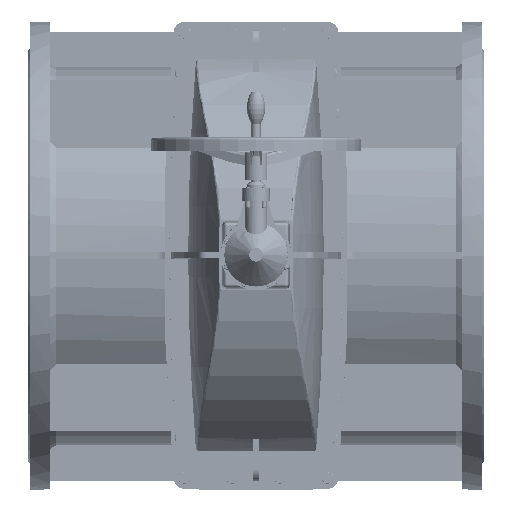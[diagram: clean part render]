
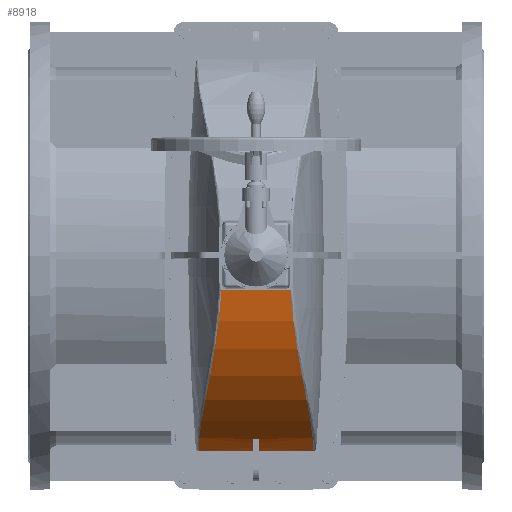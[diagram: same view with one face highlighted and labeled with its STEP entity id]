
A CAD part, top view. The second image highlights one B-rep face of the part: STEP entity #8918.
In plain terms, the highlighted cylindrical face has radius 457.333 mm (diameter 914.667 mm), a partial arc.
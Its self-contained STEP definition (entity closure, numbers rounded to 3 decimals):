
#8918=ADVANCED_FACE('',(#16828),#16830,.T.);
#16828=FACE_BOUND('',#16829,.T.);
#16829=EDGE_LOOP('',(#29916,#29917,#29918,#29919,#29920,#29921,#29922,#29923));
#16830=CYLINDRICAL_SURFACE('',#16831,457.333);
#16831=AXIS2_PLACEMENT_3D('',#16832,#16833,#16834);
#16832=CARTESIAN_POINT('',(0.,-149.505,-43.));
#16833=DIRECTION('',(0.,1.,0.));
#16834=DIRECTION('',(-0.939,0.,0.345));
#29916=ORIENTED_EDGE('',*,*,#34462,.F.);
#29917=ORIENTED_EDGE('',*,*,#34463,.F.);
#29918=ORIENTED_EDGE('',*,*,#34464,.F.);
#29919=ORIENTED_EDGE('',*,*,#34465,.F.);
#29920=ORIENTED_EDGE('',*,*,#34466,.F.);
#29921=ORIENTED_EDGE('',*,*,#34467,.T.);
#29922=ORIENTED_EDGE('',*,*,#34468,.F.);
#29923=ORIENTED_EDGE('',*,*,#34469,.F.);
#34462=EDGE_CURVE('',#38818,#38819,#38820,.F.);
#34463=EDGE_CURVE('',#38821,#38818,#38822,.T.);
#34464=EDGE_CURVE('',#38823,#38821,#38824,.T.);
#34465=EDGE_CURVE('',#38825,#38823,#38826,.T.);
#34466=EDGE_CURVE('',#38827,#38825,#38828,.F.);
#34467=EDGE_CURVE('',#38827,#38829,#38830,.T.);
#34468=EDGE_CURVE('',#38831,#38829,#38832,.T.);
#34469=EDGE_CURVE('',#38819,#38831,#38833,.T.);
#38818=VERTEX_POINT('',#53594);
#38819=VERTEX_POINT('',#53595);
#38820=CIRCLE('',#53596,457.333);
#38821=VERTEX_POINT('',#53600);
#38822=LINE('',#53601,#53602);
#38823=VERTEX_POINT('',#53604);
#38824=CIRCLE('',#53605,457.333);
#38825=VERTEX_POINT('',#53609);
#38826=LINE('',#53610,#53611);
#38827=VERTEX_POINT('',#53613);
#38828=B_SPLINE_CURVE_WITH_KNOTS('',3,
(#53614,#53615,#53616,#53617,#53618,#53619,#53620,#53621,#53622,#53623,#53624,#53625,
#53626,#53627),
.UNSPECIFIED.,.F.,.F.,
(4,1,1,1,1,1,1,1,1,1,1,4),
(0.,0.098,0.184,0.264,0.35,0.449,
0.557,0.668,0.772,0.861,0.936,
1.),
.UNSPECIFIED.);
#38829=VERTEX_POINT('',#53628);
#38830=LINE('',#53629,#53630);
#38831=VERTEX_POINT('',#53632);
#38832=B_SPLINE_CURVE_WITH_KNOTS('',3,
(#53633,#53634,#53635,#53636,#53637,#53638,#53639,#53640,#53641,#53642,#53643,#53644,
#53645,#53646),
.UNSPECIFIED.,.F.,.F.,
(4,1,1,1,1,1,1,1,1,1,1,4),
(0.,0.098,0.184,0.264,0.35,0.449,
0.557,0.668,0.772,0.861,0.936,
1.),
.UNSPECIFIED.);
#38833=LINE('',#53647,#53648);
#53594=CARTESIAN_POINT('',(-402.213,7.167,174.667));
#53595=CARTESIAN_POINT('',(-429.296,7.167,114.667));
#53596=AXIS2_PLACEMENT_3D('',#53597,#53598,#53599);
#53597=CARTESIAN_POINT('',(0.,7.167,-43.));
#53598=DIRECTION('',(0.,1.,0.));
#53599=DIRECTION('',(-0.939,0.,0.345));
#53600=CARTESIAN_POINT('',(-402.213,-7.167,174.667));
#53601=CARTESIAN_POINT('',(-402.213,-7.167,174.667));
#53602=VECTOR('',#53603,1.);
#53603=DIRECTION('',(0.,1.,0.));
#53604=CARTESIAN_POINT('',(-429.296,-7.167,114.667));
#53605=AXIS2_PLACEMENT_3D('',#53606,#53607,#53608);
#53606=CARTESIAN_POINT('',(0.,-7.167,-43.));
#53607=DIRECTION('',(0.,1.,0.));
#53608=DIRECTION('',(-0.939,0.,0.345));
#53609=CARTESIAN_POINT('',(-429.296,-124.779,114.667));
#53610=CARTESIAN_POINT('',(-429.296,-124.779,114.667));
#53611=VECTOR('',#53612,1.);
#53612=DIRECTION('',(0.,1.,0.));
#53613=CARTESIAN_POINT('',(-77.482,-75.618,407.722));
#53614=CARTESIAN_POINT('',(-429.296,-124.779,114.667));
#53615=CARTESIAN_POINT('',(-423.893,-125.315,129.379));
#53616=CARTESIAN_POINT('',(-412.294,-125.288,156.556));
#53617=CARTESIAN_POINT('',(-391.976,-123.449,193.73));
#53618=CARTESIAN_POINT('',(-369.518,-120.209,227.452));
#53619=CARTESIAN_POINT('',(-342.992,-115.58,260.594));
#53620=CARTESIAN_POINT('',(-310.308,-109.33,294.162));
#53621=CARTESIAN_POINT('',(-271.297,-101.776,326.408));
#53622=CARTESIAN_POINT('',(-228.21,-93.926,354.429));
#53623=CARTESIAN_POINT('',(-184.826,-86.993,376.177));
#53624=CARTESIAN_POINT('',(-144.748,-81.685,391.423));
#53625=CARTESIAN_POINT('',(-109.498,-78.021,401.452));
#53626=CARTESIAN_POINT('',(-87.649,-76.262,405.974));
#53627=CARTESIAN_POINT('',(-77.482,-75.618,407.722));
#53628=CARTESIAN_POINT('',(-77.482,75.618,407.722));
#53629=CARTESIAN_POINT('',(-77.482,-75.618,407.722));
#53630=VECTOR('',#53631,1.);
#53631=DIRECTION('',(0.,1.,0.));
#53632=CARTESIAN_POINT('',(-429.296,124.779,114.667));
#53633=CARTESIAN_POINT('',(-429.296,124.779,114.667));
#53634=CARTESIAN_POINT('',(-423.893,125.315,129.379));
#53635=CARTESIAN_POINT('',(-412.294,125.288,156.556));
#53636=CARTESIAN_POINT('',(-391.976,123.449,193.73));
#53637=CARTESIAN_POINT('',(-369.518,120.209,227.452));
#53638=CARTESIAN_POINT('',(-342.992,115.58,260.594));
#53639=CARTESIAN_POINT('',(-310.308,109.33,294.162));
#53640=CARTESIAN_POINT('',(-271.297,101.776,326.408));
#53641=CARTESIAN_POINT('',(-228.21,93.926,354.429));
#53642=CARTESIAN_POINT('',(-184.826,86.993,376.177));
#53643=CARTESIAN_POINT('',(-144.748,81.685,391.423));
#53644=CARTESIAN_POINT('',(-109.498,78.021,401.452));
#53645=CARTESIAN_POINT('',(-87.649,76.262,405.974));
#53646=CARTESIAN_POINT('',(-77.482,75.618,407.722));
#53647=CARTESIAN_POINT('',(-429.296,7.167,114.667));
#53648=VECTOR('',#53649,1.);
#53649=DIRECTION('',(0.,1.,0.));
